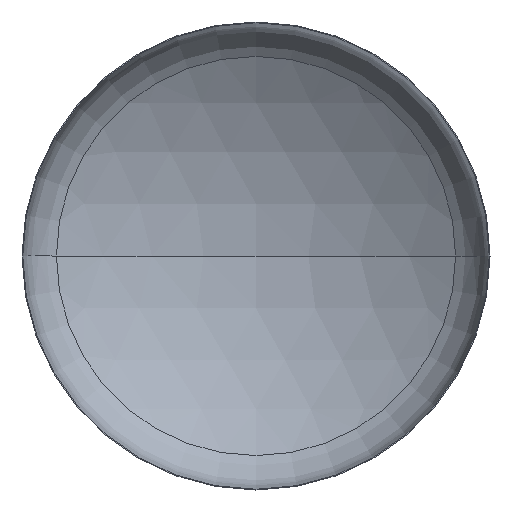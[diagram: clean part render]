
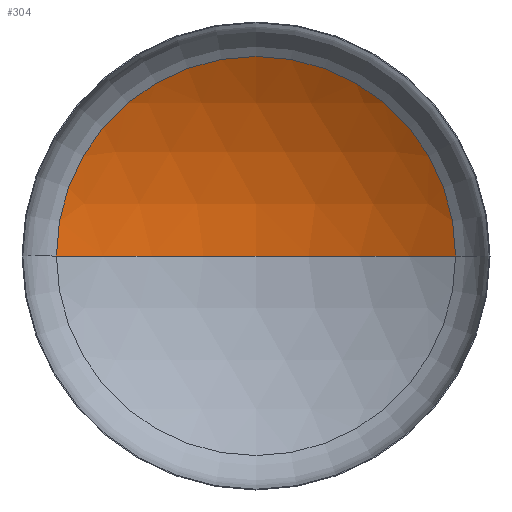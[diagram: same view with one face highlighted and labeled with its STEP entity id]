
A CAD part, front view. The second image highlights one B-rep face of the part: STEP entity #304.
In plain terms, the highlighted spherical face has radius 4000 mm.
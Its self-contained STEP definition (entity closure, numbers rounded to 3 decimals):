
#5 = DIRECTION ( 'NONE',  ( 1., 0., 0. ) ) ;
#7 = DIRECTION ( 'NONE',  ( 0., -1., 0. ) ) ;
#12 = AXIS2_PLACEMENT_3D ( 'NONE', #96, #322, #150 ) ;
#19 = AXIS2_PLACEMENT_3D ( 'NONE', #243, #410, #268 ) ;
#27 = CARTESIAN_POINT ( 'NONE',  ( 0., 676.447, 0. ) ) ;
#34 = AXIS2_PLACEMENT_3D ( 'NONE', #176, #115, #311 ) ;
#43 = VERTEX_POINT ( 'NONE', #336 ) ;
#50 = VERTEX_POINT ( 'NONE', #54 ) ;
#54 = CARTESIAN_POINT ( 'NONE',  ( 0., 1292.306, 0. ) ) ;
#64 = AXIS2_PLACEMENT_3D ( 'NONE', #27, #7, #5 ) ;
#92 = VERTEX_POINT ( 'NONE', #303 ) ;
#96 = CARTESIAN_POINT ( 'NONE',  ( 0., -2707.694, 0. ) ) ;
#97 = CIRCLE ( 'NONE', #19, 4000. ) ;
#108 = ORIENTED_EDGE ( 'NONE', *, *, #365, .T. ) ;
#115 = DIRECTION ( 'NONE',  ( 0., 0., -1. ) ) ;
#137 = ORIENTED_EDGE ( 'NONE', *, *, #161, .T. ) ;
#150 = DIRECTION ( 'NONE',  ( 1., 0., 0. ) ) ;
#161 = EDGE_CURVE ( 'NONE', #92, #43, #310, .T. ) ;
#174 = ORIENTED_EDGE ( 'NONE', *, *, #367, .F. ) ;
#176 = CARTESIAN_POINT ( 'NONE',  ( 0., -2707.694, 0. ) ) ;
#202 = CIRCLE ( 'NONE', #12, 4000. ) ;
#218 = EDGE_LOOP ( 'NONE', ( #174, #108, #137 ) ) ;
#243 = CARTESIAN_POINT ( 'NONE',  ( 0., -2707.694, 0. ) ) ;
#268 = DIRECTION ( 'NONE',  ( -1., 0., 0. ) ) ;
#303 = CARTESIAN_POINT ( 'NONE',  ( 2132.508, 676.447, 0. ) ) ;
#304 = ADVANCED_FACE ( 'NONE', ( #411 ), #366, .F. ) ;
#310 = CIRCLE ( 'NONE', #64, 2132.508 ) ;
#311 = DIRECTION ( 'NONE',  ( -1., 0., 0. ) ) ;
#322 = DIRECTION ( 'NONE',  ( 0., 0., 1. ) ) ;
#336 = CARTESIAN_POINT ( 'NONE',  ( -2132.508, 676.447, 0. ) ) ;
#365 = EDGE_CURVE ( 'NONE', #50, #92, #97, .T. ) ;
#366 = SPHERICAL_SURFACE ( 'NONE', #34, 4000. ) ;
#367 = EDGE_CURVE ( 'NONE', #50, #43, #202, .T. ) ;
#410 = DIRECTION ( 'NONE',  ( 0., 0., -1. ) ) ;
#411 = FACE_OUTER_BOUND ( 'NONE', #218, .T. ) ;
